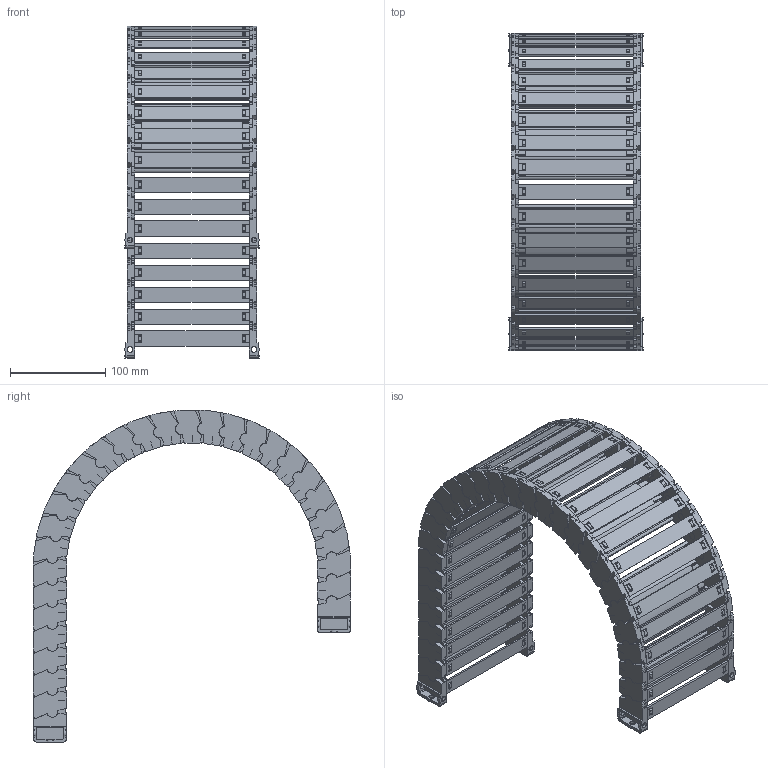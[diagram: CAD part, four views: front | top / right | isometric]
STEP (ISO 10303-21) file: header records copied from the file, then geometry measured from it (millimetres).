
FILE_DESCRIPTION((''),'2;1');
FILE_NAME('JY-25X120-R150_ASM','2022-05-07T11:28:21',('admin'),(''),'CREO PARAMETRIC BY PTC INC, 2021164','CREO PARAMETRIC BY PTC INC, 2021164','');
FILE_SCHEMA(('CONFIG_CONTROL_DESIGN','GEOMETRIC_VALIDATION_PROPERTIES_MIM'));
Length unit declared in the file: millimetre
Products named in the file (11): 25XL-L; 25-35XL-YP; 25XL-R; ASM0001_ASM; 25-LTT-A-L; 25-LTT-A-R; 25XL-LTT-A_ASM; 25-LTT-B-L; 25-LTT-B-R; 25XL-LTT-B_ASM; JY-25X120-R150_ASM
Assembly tree (42 placements, depth 3):
  JY-25X120-R150_ASM
    ASM0001_ASM  x28
      25XL-L
      25-35XL-YP
      25XL-R
    25XL-LTT-A_ASM
      25-LTT-A-L
      25-35XL-YP  x2
      25-LTT-A-R
    25XL-LTT-B_ASM
      25-LTT-B-L
      25-35XL-YP  x2
      25-LTT-B-R
Bounding box: 141.18 x 333.3 x 348.9 mm (x, y, z)
Volume: 704009 mm3; surface area: 516120.2 mm2
Topology: 120 solids, 148 shells, 6222 faces, 18602 edges, 12590 vertices
Faces by surface type: plane 4594, cylinder 1572, cone 56
Entity records: 24179 total; most frequent: CARTESIAN_POINT 3140, DIRECTION 3035, ORIENTED_EDGE 2962, EDGE_CURVE 1483, PRESENTATION_STYLE_ASSIGNMENT 1413, STYLED_ITEM 1381, VECTOR 1053, LINE 1053
